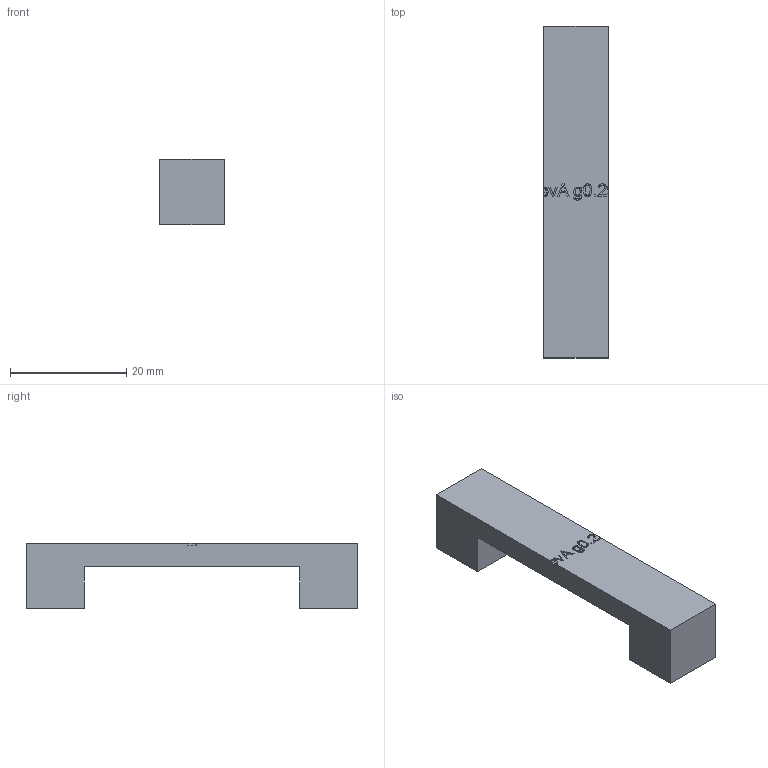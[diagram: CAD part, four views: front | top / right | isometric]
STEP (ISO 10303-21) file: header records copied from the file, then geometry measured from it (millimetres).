
FILE_DESCRIPTION(('Open CASCADE Model'),'2;1');
FILE_NAME('Open CASCADE Shape Model','2026-07-23T16:04:21',('Author'),( 'Open CASCADE'),'Open CASCADE STEP processor 7.9','build123d', 'Unknown');
FILE_SCHEMA(('AUTOMOTIVE_DESIGN { 1 0 10303 214 1 1 1 1 }'));
Length unit declared in the file: millimetre
Products named in the file (2): =>[0:1:1:2]; COMPOUND
Assembly tree (1 placements, depth 2):
  =>[0:1:1:2]
    COMPOUND
Bounding box: 11 x 57 x 11.2 mm (x, y, z)
Volume: 3993.8 mm3; surface area: 2529.4 mm2
Topology: 1 solids, 1 shells, 143 faces, 390 edges, 260 vertices
Faces by surface type: extrusion 81, plane 60, cylinder 2
Full cylindrical faces by diameter (mm): 3.5 x2
Entity records: 10951 total; most frequent: CARTESIAN_POINT 4020, DIRECTION 873, ORIENTED_EDGE 780, PCURVE 780, DEFINITIONAL_REPRESENTATION 780, VECTOR 733, LINE 652, B_SPLINE_CURVE_WITH_KNOTS 591
